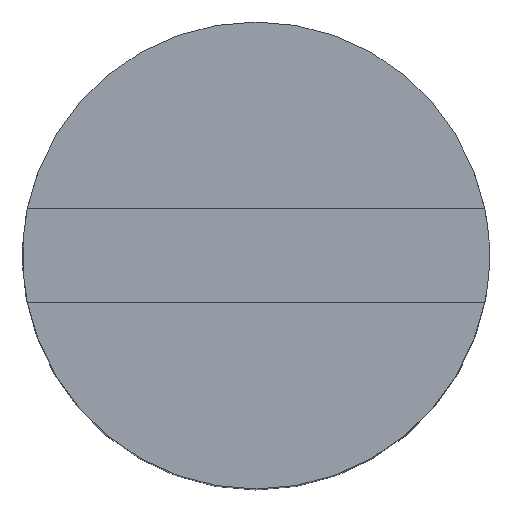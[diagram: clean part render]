
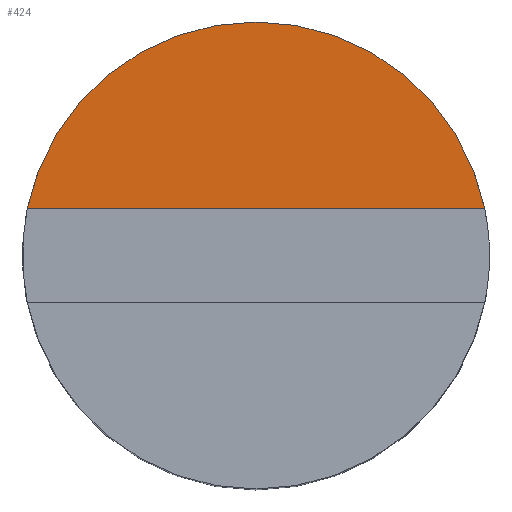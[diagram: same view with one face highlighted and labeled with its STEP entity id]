
A CAD part, top view. The second image highlights one B-rep face of the part: STEP entity #424.
In plain terms, the highlighted planar face has unit normal (0, 0, 1).
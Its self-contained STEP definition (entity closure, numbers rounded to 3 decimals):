
#31 = CYLINDRICAL_SURFACE('',#32,1.);
#32 = AXIS2_PLACEMENT_3D('',#33,#34,#35);
#33 = CARTESIAN_POINT('',(0.,-43.,8.4));
#34 = DIRECTION('',(-0.,-0.,-1.));
#35 = DIRECTION('',(1.,0.,0.));
#112 = VERTEX_POINT('',#113);
#113 = CARTESIAN_POINT('',(0.98,-42.8,10.9));
#126 = PLANE('',#127);
#127 = AXIS2_PLACEMENT_3D('',#128,#129,#130);
#128 = CARTESIAN_POINT('',(-1.1,-42.8,10.65));
#129 = DIRECTION('',(0.,1.,0.));
#130 = DIRECTION('',(0.,0.,1.));
#137 = EDGE_CURVE('',#112,#138,#140,.T.);
#138 = VERTEX_POINT('',#139);
#139 = CARTESIAN_POINT('',(-0.98,-42.8,10.9));
#140 = SURFACE_CURVE('',#141,(#146,#153),.PCURVE_S1.);
#141 = CIRCLE('',#142,1.);
#142 = AXIS2_PLACEMENT_3D('',#143,#144,#145);
#143 = CARTESIAN_POINT('',(0.,-43.,10.9));
#144 = DIRECTION('',(0.,0.,1.));
#145 = DIRECTION('',(1.,0.,0.));
#146 = PCURVE('',#31,#147);
#147 = DEFINITIONAL_REPRESENTATION('',(#148),#152);
#148 = LINE('',#149,#150);
#149 = CARTESIAN_POINT('',(-0.,-2.5));
#150 = VECTOR('',#151,1.);
#151 = DIRECTION('',(-1.,0.));
#152 = ( GEOMETRIC_REPRESENTATION_CONTEXT(2) 
PARAMETRIC_REPRESENTATION_CONTEXT() REPRESENTATION_CONTEXT('2D SPACE',''
  ) );
#153 = PCURVE('',#154,#159);
#154 = PLANE('',#155);
#155 = AXIS2_PLACEMENT_3D('',#156,#157,#158);
#156 = CARTESIAN_POINT('',(0.,-43.,10.9));
#157 = DIRECTION('',(0.,0.,1.));
#158 = DIRECTION('',(1.,0.,-0.));
#159 = DEFINITIONAL_REPRESENTATION('',(#160),#164);
#160 = CIRCLE('',#161,1.);
#161 = AXIS2_PLACEMENT_2D('',#162,#163);
#162 = CARTESIAN_POINT('',(0.,0.));
#163 = DIRECTION('',(1.,0.));
#164 = ( GEOMETRIC_REPRESENTATION_CONTEXT(2) 
PARAMETRIC_REPRESENTATION_CONTEXT() REPRESENTATION_CONTEXT('2D SPACE',''
  ) );
#405 = EDGE_CURVE('',#112,#138,#406,.T.);
#406 = SURFACE_CURVE('',#407,(#411,#417),.PCURVE_S1.);
#407 = LINE('',#408,#409);
#408 = CARTESIAN_POINT('',(-0.55,-42.8,10.9));
#409 = VECTOR('',#410,1.);
#410 = DIRECTION('',(-1.,0.,0.));
#411 = PCURVE('',#126,#412);
#412 = DEFINITIONAL_REPRESENTATION('',(#413),#416);
#413 = B_SPLINE_CURVE_WITH_KNOTS('',1,(#414,#415),.UNSPECIFIED.,.F.,.F.,
  (2,2),(-1.55,0.45),.PIECEWISE_BEZIER_KNOTS.);
#414 = CARTESIAN_POINT('',(0.25,2.1));
#415 = CARTESIAN_POINT('',(0.25,0.1));
#416 = ( GEOMETRIC_REPRESENTATION_CONTEXT(2) 
PARAMETRIC_REPRESENTATION_CONTEXT() REPRESENTATION_CONTEXT('2D SPACE',''
  ) );
#417 = PCURVE('',#154,#418);
#418 = DEFINITIONAL_REPRESENTATION('',(#419),#422);
#419 = B_SPLINE_CURVE_WITH_KNOTS('',1,(#420,#421),.UNSPECIFIED.,.F.,.F.,
  (2,2),(-1.55,0.45),.PIECEWISE_BEZIER_KNOTS.);
#420 = CARTESIAN_POINT('',(1.,0.2));
#421 = CARTESIAN_POINT('',(-1.,0.2));
#422 = ( GEOMETRIC_REPRESENTATION_CONTEXT(2) 
PARAMETRIC_REPRESENTATION_CONTEXT() REPRESENTATION_CONTEXT('2D SPACE',''
  ) );
#424 = ADVANCED_FACE('',(#425),#154,.T.);
#425 = FACE_BOUND('',#426,.T.);
#426 = EDGE_LOOP('',(#427,#428));
#427 = ORIENTED_EDGE('',*,*,#405,.F.);
#428 = ORIENTED_EDGE('',*,*,#137,.T.);
